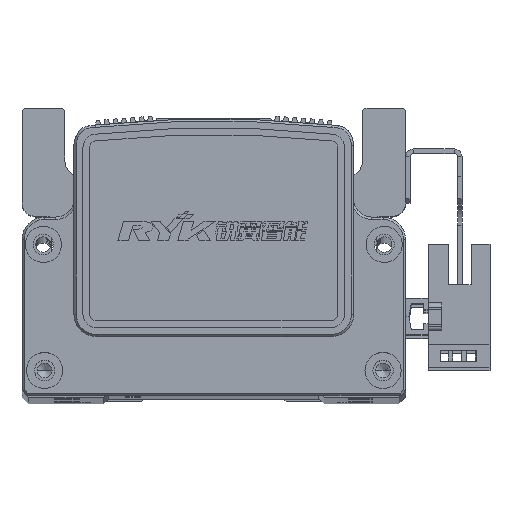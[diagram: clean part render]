
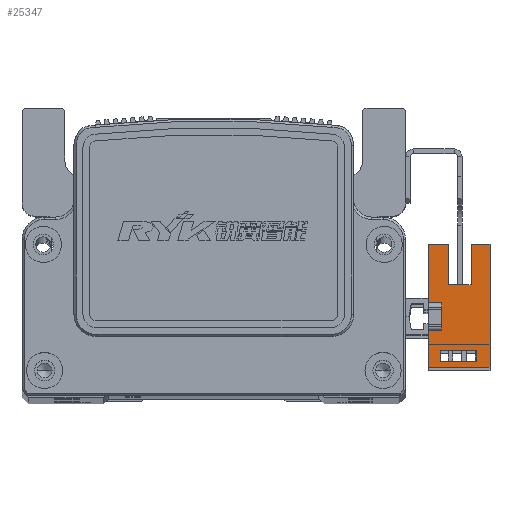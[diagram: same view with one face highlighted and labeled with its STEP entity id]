
A CAD part, top view. The second image highlights one B-rep face of the part: STEP entity #25347.
In plain terms, the highlighted planar face has unit normal (0, 0, 1) as drawn and (1, 0, 0) by its records, which use the part's own axes.
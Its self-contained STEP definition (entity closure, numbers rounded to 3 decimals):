
#399 = VERTEX_POINT ( 'NONE', #59849 ) ;
#434 = VERTEX_POINT ( 'NONE', #59827 ) ;
#446 = VERTEX_POINT ( 'NONE', #59845 ) ;
#457 = VERTEX_POINT ( 'NONE', #59843 ) ;
#499 = VERTEX_POINT ( 'NONE', #59842 ) ;
#501 = VERTEX_POINT ( 'NONE', #59844 ) ;
#556 = VERTEX_POINT ( 'NONE', #59880 ) ;
#2862 = AXIS2_PLACEMENT_3D ( 'NONE', #19017, #19066, #19106 ) ;
#18955 = PLANE ( 'NONE',  #2862 ) ;
#19017 = CARTESIAN_POINT ( 'NONE',  ( 3.2, 16.1, -10.7 ) ) ;
#19066 = DIRECTION ( 'NONE',  ( 1., 0., 0. ) ) ;
#19106 = DIRECTION ( 'NONE',  ( 0., 1., 0. ) ) ;
#19617 = CARTESIAN_POINT ( 'NONE',  ( 3.2, -11.1, 3. ) ) ;
#19629 = CARTESIAN_POINT ( 'NONE',  ( 3.2, 16.1, -10.7 ) ) ;
#20089 = CARTESIAN_POINT ( 'NONE',  ( 3.2, 16.1, -6.5 ) ) ;
#20160 = CARTESIAN_POINT ( 'NONE',  ( 3.2, 3.1, 0. ) ) ;
#20164 = CARTESIAN_POINT ( 'NONE',  ( 3.2, 3.1, 3. ) ) ;
#20165 = CARTESIAN_POINT ( 'NONE',  ( 3.2, -7.33, -7.7 ) ) ;
#20181 = CARTESIAN_POINT ( 'NONE',  ( 3.2, -3.1, 0. ) ) ;
#20182 = CARTESIAN_POINT ( 'NONE',  ( 3.2, -11.1, -10.7 ) ) ;
#20194 = CARTESIAN_POINT ( 'NONE',  ( 3.2, 16.1, 3. ) ) ;
#25347 = ADVANCED_FACE ( 'NONE', ( #56425, #56426 ), #18955, .T. ) ;
#25853 = VERTEX_POINT ( 'NONE', #19617 ) ;
#25855 = VERTEX_POINT ( 'NONE', #19629 ) ;
#32126 = CARTESIAN_POINT ( 'NONE',  ( 3.2, 16.1, 3. ) ) ;
#32133 = DIRECTION ( 'NONE',  ( 0., 1., 0. ) ) ;
#32159 = CARTESIAN_POINT ( 'NONE',  ( 3.2, 16.1, 3. ) ) ;
#32163 = DIRECTION ( 'NONE',  ( 0., 1., 0. ) ) ;
#32173 = DIRECTION ( 'NONE',  ( 0., 0., 1. ) ) ;
#32181 = DIRECTION ( 'NONE',  ( 0., 0., 1. ) ) ;
#32187 = CARTESIAN_POINT ( 'NONE',  ( 3.2, 3.1, 3. ) ) ;
#32196 = CARTESIAN_POINT ( 'NONE',  ( 3.2, 16.1, -10.7 ) ) ;
#32280 = CARTESIAN_POINT ( 'NONE',  ( 3.2, 25.1, -1.5 ) ) ;
#32306 = DIRECTION ( 'NONE',  ( 0., 1., 0. ) ) ;
#32323 = CARTESIAN_POINT ( 'NONE',  ( 3.2, -7.33, -10.7 ) ) ;
#32331 = DIRECTION ( 'NONE',  ( 0., 1., 0. ) ) ;
#32335 = CARTESIAN_POINT ( 'NONE',  ( 3.2, 16.1, -10.7 ) ) ;
#32344 = DIRECTION ( 'NONE',  ( 0., 0., -1. ) ) ;
#32353 = CARTESIAN_POINT ( 'NONE',  ( 3.2, -3.1, 3. ) ) ;
#32358 = DIRECTION ( 'NONE',  ( 0., 0., 1. ) ) ;
#32365 = DIRECTION ( 'NONE',  ( 0., 1., 0. ) ) ;
#32396 = CARTESIAN_POINT ( 'NONE',  ( 3.2, 0., 0. ) ) ;
#32467 = CARTESIAN_POINT ( 'NONE',  ( 3.2, 16.1, 0.3 ) ) ;
#32473 = DIRECTION ( 'NONE',  ( 0., -1., 0. ) ) ;
#32474 = CARTESIAN_POINT ( 'NONE',  ( 3.2, -9.83, -10.7 ) ) ;
#32477 = CARTESIAN_POINT ( 'NONE',  ( 3.2, 25.1, -6.5 ) ) ;
#32478 = DIRECTION ( 'NONE',  ( 0., -1., 0. ) ) ;
#32480 = DIRECTION ( 'NONE',  ( 0., 0., -1. ) ) ;
#32496 = DIRECTION ( 'NONE',  ( 0., 1., 0. ) ) ;
#32528 = CARTESIAN_POINT ( 'NONE',  ( 3.2, 16.1, -7.7 ) ) ;
#32529 = DIRECTION ( 'NONE',  ( 0., 0., 1. ) ) ;
#32534 = CARTESIAN_POINT ( 'NONE',  ( 3.2, 7.1, -6.5 ) ) ;
#32535 = CARTESIAN_POINT ( 'NONE',  ( 3.2, 16.1, -10.7 ) ) ;
#32539 = DIRECTION ( 'NONE',  ( 0., 0., 1. ) ) ;
#32549 = CARTESIAN_POINT ( 'NONE',  ( 3.2, -11.1, 3. ) ) ;
#32568 = DIRECTION ( 'NONE',  ( 0., 0., 1. ) ) ;
#33236 = LINE ( 'NONE', #32126, #33262 ) ;
#33262 = VECTOR ( 'NONE', #32133, 1000. ) ;
#33294 = LINE ( 'NONE', #32159, #33340 ) ;
#33337 = LINE ( 'NONE', #32187, #33339 ) ;
#33339 = VECTOR ( 'NONE', #32173, 1000. ) ;
#33340 = VECTOR ( 'NONE', #32163, 1000. ) ;
#33342 = VECTOR ( 'NONE', #32181, 1000. ) ;
#33351 = LINE ( 'NONE', #32196, #33342 ) ;
#33365 = VERTEX_POINT ( 'NONE', #20089 ) ;
#33424 = LINE ( 'NONE', #32323, #33428 ) ;
#33428 = VECTOR ( 'NONE', #32358, 1000. ) ;
#33437 = LINE ( 'NONE', #32353, #33493 ) ;
#33481 = VECTOR ( 'NONE', #32306, 1000. ) ;
#33491 = LINE ( 'NONE', #32335, #33492 ) ;
#33492 = VECTOR ( 'NONE', #32331, 1000. ) ;
#33493 = VECTOR ( 'NONE', #32344, 1000. ) ;
#33497 = LINE ( 'NONE', #32280, #33481 ) ;
#33523 = LINE ( 'NONE', #32396, #33561 ) ;
#33561 = VECTOR ( 'NONE', #32365, 1000. ) ;
#33597 = LINE ( 'NONE', #32474, #33611 ) ;
#33603 = VECTOR ( 'NONE', #32478, 1000. ) ;
#33608 = VECTOR ( 'NONE', #32473, 1000. ) ;
#33611 = VECTOR ( 'NONE', #32480, 1000. ) ;
#33612 = LINE ( 'NONE', #32467, #33608 ) ;
#33627 = VECTOR ( 'NONE', #32496, 1000. ) ;
#33634 = LINE ( 'NONE', #32477, #33603 ) ;
#33643 = LINE ( 'NONE', #32528, #33627 ) ;
#33673 = VECTOR ( 'NONE', #32529, 1000. ) ;
#33680 = LINE ( 'NONE', #32549, #33722 ) ;
#33690 = VECTOR ( 'NONE', #32539, 1000. ) ;
#33696 = LINE ( 'NONE', #32535, #33690 ) ;
#33716 = LINE ( 'NONE', #32534, #33673 ) ;
#33722 = VECTOR ( 'NONE', #32568, 1000. ) ;
#33770 = VERTEX_POINT ( 'NONE', #20182 ) ;
#33773 = VERTEX_POINT ( 'NONE', #20165 ) ;
#33816 = VERTEX_POINT ( 'NONE', #20160 ) ;
#33877 = VERTEX_POINT ( 'NONE', #20164 ) ;
#33921 = VERTEX_POINT ( 'NONE', #20181 ) ;
#33966 = VERTEX_POINT ( 'NONE', #20194 ) ;
#39676 = EDGE_LOOP ( 'NONE', ( #54120, #54100, #54069, #54074, #54101, #54168, #54149, #54161, #54190, #54164, #54135, #54192 ) ) ;
#39682 = EDGE_LOOP ( 'NONE', ( #54181, #54142, #54183, #54166 ) ) ;
#52077 = EDGE_CURVE ( 'NONE', #25853, #457, #33236, .T. ) ;
#52132 = EDGE_CURVE ( 'NONE', #33816, #33877, #33337, .T. ) ;
#52146 = EDGE_CURVE ( 'NONE', #25855, #33365, #33351, .T. ) ;
#52153 = EDGE_CURVE ( 'NONE', #33877, #33966, #33294, .T. ) ;
#52267 = EDGE_CURVE ( 'NONE', #434, #556, #33497, .T. ) ;
#52292 = EDGE_CURVE ( 'NONE', #33773, #501, #33424, .T. ) ;
#52308 = EDGE_CURVE ( 'NONE', #33770, #25855, #33491, .T. ) ;
#52314 = EDGE_CURVE ( 'NONE', #457, #33921, #33437, .T. ) ;
#52351 = EDGE_CURVE ( 'NONE', #33921, #33816, #33523, .T. ) ;
#52393 = EDGE_CURVE ( 'NONE', #499, #446, #33597, .T. ) ;
#52402 = EDGE_CURVE ( 'NONE', #501, #499, #33612, .T. ) ;
#52414 = EDGE_CURVE ( 'NONE', #33365, #399, #33634, .T. ) ;
#52425 = EDGE_CURVE ( 'NONE', #446, #33773, #33643, .T. ) ;
#52476 = EDGE_CURVE ( 'NONE', #33770, #25853, #33680, .T. ) ;
#52487 = EDGE_CURVE ( 'NONE', #399, #434, #33716, .T. ) ;
#52494 = EDGE_CURVE ( 'NONE', #556, #33966, #33696, .T. ) ;
#54069 = ORIENTED_EDGE ( 'NONE', *, *, #52267, .T. ) ;
#54074 = ORIENTED_EDGE ( 'NONE', *, *, #52494, .T. ) ;
#54100 = ORIENTED_EDGE ( 'NONE', *, *, #52487, .T. ) ;
#54101 = ORIENTED_EDGE ( 'NONE', *, *, #52153, .F. ) ;
#54120 = ORIENTED_EDGE ( 'NONE', *, *, #52414, .T. ) ;
#54135 = ORIENTED_EDGE ( 'NONE', *, *, #52308, .T. ) ;
#54142 = ORIENTED_EDGE ( 'NONE', *, *, #52292, .F. ) ;
#54149 = ORIENTED_EDGE ( 'NONE', *, *, #52351, .F. ) ;
#54161 = ORIENTED_EDGE ( 'NONE', *, *, #52314, .F. ) ;
#54164 = ORIENTED_EDGE ( 'NONE', *, *, #52476, .F. ) ;
#54166 = ORIENTED_EDGE ( 'NONE', *, *, #52393, .F. ) ;
#54168 = ORIENTED_EDGE ( 'NONE', *, *, #52132, .F. ) ;
#54181 = ORIENTED_EDGE ( 'NONE', *, *, #52402, .F. ) ;
#54183 = ORIENTED_EDGE ( 'NONE', *, *, #52425, .F. ) ;
#54190 = ORIENTED_EDGE ( 'NONE', *, *, #52077, .F. ) ;
#54192 = ORIENTED_EDGE ( 'NONE', *, *, #52146, .T. ) ;
#56425 = FACE_OUTER_BOUND ( 'NONE', #39676, .T. ) ;
#56426 = FACE_BOUND ( 'NONE', #39682, .T. ) ;
#59827 = CARTESIAN_POINT ( 'NONE',  ( 3.2, 7.1, -1.5 ) ) ;
#59842 = CARTESIAN_POINT ( 'NONE',  ( 3.2, -9.83, 0.3 ) ) ;
#59843 = CARTESIAN_POINT ( 'NONE',  ( 3.2, -3.1, 3. ) ) ;
#59844 = CARTESIAN_POINT ( 'NONE',  ( 3.2, -7.33, 0.3 ) ) ;
#59845 = CARTESIAN_POINT ( 'NONE',  ( 3.2, -9.83, -7.7 ) ) ;
#59849 = CARTESIAN_POINT ( 'NONE',  ( 3.2, 7.1, -6.5 ) ) ;
#59880 = CARTESIAN_POINT ( 'NONE',  ( 3.2, 16.1, -1.5 ) ) ;
